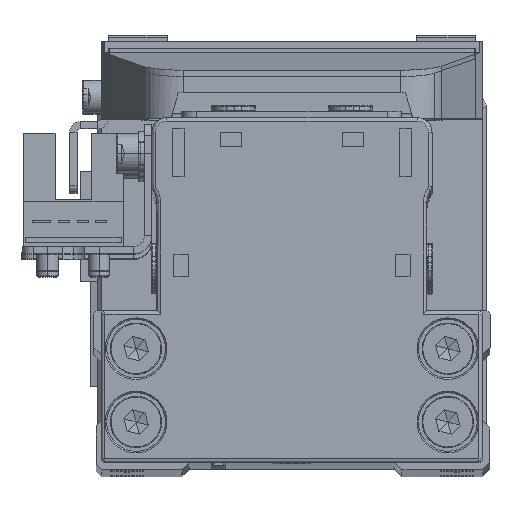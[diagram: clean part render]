
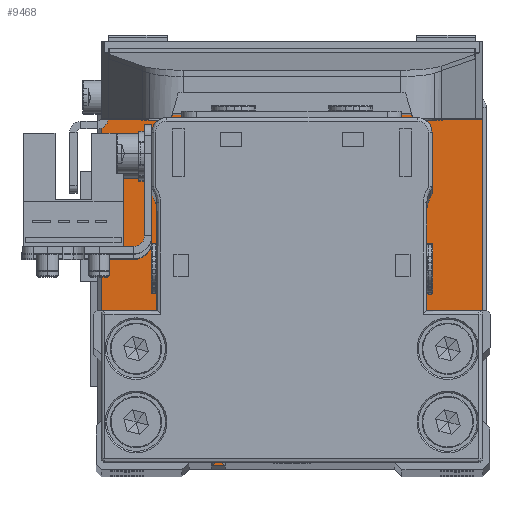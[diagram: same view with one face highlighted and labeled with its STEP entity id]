
A CAD part, top view. The second image highlights one B-rep face of the part: STEP entity #9468.
In plain terms, the highlighted planar face has unit normal (0, 0, 1).
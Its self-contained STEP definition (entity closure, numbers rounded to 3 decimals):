
#348 = VECTOR ( 'NONE', #12960, 1000. ) ;
#646 = EDGE_CURVE ( 'NONE', #25196, #21338, #15570, .T. ) ;
#680 = VERTEX_POINT ( 'NONE', #17342 ) ;
#705 = AXIS2_PLACEMENT_3D ( 'NONE', #17176, #27650, #4051 ) ;
#734 = EDGE_CURVE ( 'NONE', #11737, #680, #7847, .T. ) ;
#770 = EDGE_CURVE ( 'NONE', #3806, #23123, #5442, .T. ) ;
#965 = CARTESIAN_POINT ( 'NONE',  ( -21.25, 19.95, 6.5 ) ) ;
#1215 = ORIENTED_EDGE ( 'NONE', *, *, #21602, .T. ) ;
#1307 = DIRECTION ( 'NONE',  ( -1., 0., 0. ) ) ;
#1333 = CIRCLE ( 'NONE', #20591, 1. ) ;
#1823 = DIRECTION ( 'NONE',  ( -1., 0., 0. ) ) ;
#2122 = AXIS2_PLACEMENT_3D ( 'NONE', #14424, #24934, #1307 ) ;
#2147 = DIRECTION ( 'NONE',  ( -1., 0., 0. ) ) ;
#2171 = VERTEX_POINT ( 'NONE', #9353 ) ;
#2357 = CARTESIAN_POINT ( 'NONE',  ( 0., 0., 6.5 ) ) ;
#2446 = CARTESIAN_POINT ( 'NONE',  ( 26., 23.95, 6.5 ) ) ;
#3806 = VERTEX_POINT ( 'NONE', #8294 ) ;
#4051 = DIRECTION ( 'NONE',  ( -1., 0., 0. ) ) ;
#4298 = CARTESIAN_POINT ( 'NONE',  ( 26., 23.95, 6.5 ) ) ;
#4582 = CARTESIAN_POINT ( 'NONE',  ( 23.65, 19.95, 6.5 ) ) ;
#4702 = ORIENTED_EDGE ( 'NONE', *, *, #734, .T. ) ;
#4953 = FACE_BOUND ( 'NONE', #16106, .T. ) ;
#5442 = CIRCLE ( 'NONE', #24740, 1. ) ;
#5652 = EDGE_CURVE ( 'NONE', #12356, #3806, #19108, .T. ) ;
#5731 = ORIENTED_EDGE ( 'NONE', *, *, #26720, .T. ) ;
#6000 = DIRECTION ( 'NONE',  ( -1., 0., 0. ) ) ;
#6084 = CARTESIAN_POINT ( 'NONE',  ( -26., 23.95, 6.5 ) ) ;
#6174 = DIRECTION ( 'NONE',  ( -1., 0., 0. ) ) ;
#6272 = AXIS2_PLACEMENT_3D ( 'NONE', #12717, #23237, #33728 ) ;
#7228 = CARTESIAN_POINT ( 'NONE',  ( 25., 24.95, 6.5 ) ) ;
#7458 = CARTESIAN_POINT ( 'NONE',  ( -25., 23.95, 6.5 ) ) ;
#7514 = CARTESIAN_POINT ( 'NONE',  ( 25., -24.95, 6.5 ) ) ;
#7526 = FACE_BOUND ( 'NONE', #15422, .T. ) ;
#7843 = DIRECTION ( 'NONE',  ( -1., 0., 0. ) ) ;
#7847 = CIRCLE ( 'NONE', #27125, 2.4 ) ;
#7909 = ORIENTED_EDGE ( 'NONE', *, *, #25901, .T. ) ;
#7913 = EDGE_CURVE ( 'NONE', #680, #11737, #14376, .T. ) ;
#8183 = ORIENTED_EDGE ( 'NONE', *, *, #646, .T. ) ;
#8294 = CARTESIAN_POINT ( 'NONE',  ( -25., 24.95, 6.5 ) ) ;
#8396 = DIRECTION ( 'NONE',  ( 0., 0., 1. ) ) ;
#8676 = DIRECTION ( 'NONE',  ( 0., -1., 0. ) ) ;
#8688 = ORIENTED_EDGE ( 'NONE', *, *, #11433, .T. ) ;
#8808 = AXIS2_PLACEMENT_3D ( 'NONE', #20974, #31446, #7843 ) ;
#9353 = CARTESIAN_POINT ( 'NONE',  ( 23.65, 9.95, 6.5 ) ) ;
#9447 = EDGE_CURVE ( 'NONE', #30058, #15426, #21144, .T. ) ;
#9468 = ADVANCED_FACE ( 'NONE', ( #7526, #18074, #28552, #4953, #15472 ), #25973, .T. ) ;
#9620 = EDGE_CURVE ( 'NONE', #32373, #23668, #1333, .T. ) ;
#9727 = CARTESIAN_POINT ( 'NONE',  ( -21.25, 9.95, 6.5 ) ) ;
#9729 = CARTESIAN_POINT ( 'NONE',  ( 25., 23.95, 6.5 ) ) ;
#9993 = ORIENTED_EDGE ( 'NONE', *, *, #9447, .T. ) ;
#10244 = DIRECTION ( 'NONE',  ( 1., 0., 0. ) ) ;
#11062 = CARTESIAN_POINT ( 'NONE',  ( 26., -23.95, 6.5 ) ) ;
#11315 = CIRCLE ( 'NONE', #30548, 2.4 ) ;
#11329 = CARTESIAN_POINT ( 'NONE',  ( -25., -24.95, 6.5 ) ) ;
#11433 = EDGE_CURVE ( 'NONE', #22402, #12356, #13029, .T. ) ;
#11485 = DIRECTION ( 'NONE',  ( 0., 0., -1. ) ) ;
#11622 = CARTESIAN_POINT ( 'NONE',  ( -23.65, 9.95, 6.5 ) ) ;
#11737 = VERTEX_POINT ( 'NONE', #11622 ) ;
#12356 = VERTEX_POINT ( 'NONE', #7228 ) ;
#12579 = CIRCLE ( 'NONE', #2122, 2.4 ) ;
#12717 = CARTESIAN_POINT ( 'NONE',  ( 25., -23.95, 6.5 ) ) ;
#12871 = DIRECTION ( 'NONE',  ( 0., 0., 1. ) ) ;
#12960 = DIRECTION ( 'NONE',  ( 0., 1., 0. ) ) ;
#13029 = CIRCLE ( 'NONE', #32283, 1. ) ;
#13340 = EDGE_LOOP ( 'NONE', ( #17875, #30650 ) ) ;
#14376 = CIRCLE ( 'NONE', #33614, 2.4 ) ;
#14399 = ORIENTED_EDGE ( 'NONE', *, *, #32866, .T. ) ;
#14424 = CARTESIAN_POINT ( 'NONE',  ( 21.25, 9.95, 6.5 ) ) ;
#14721 = CARTESIAN_POINT ( 'NONE',  ( 18.85, 9.95, 6.5 ) ) ;
#14937 = CARTESIAN_POINT ( 'NONE',  ( 21.25, 19.95, 6.5 ) ) ;
#15197 = VECTOR ( 'NONE', #8676, 1000. ) ;
#15233 = CARTESIAN_POINT ( 'NONE',  ( -21.25, 19.95, 6.5 ) ) ;
#15422 = EDGE_LOOP ( 'NONE', ( #24321, #8183 ) ) ;
#15426 = VERTEX_POINT ( 'NONE', #11062 ) ;
#15472 = FACE_OUTER_BOUND ( 'NONE', #29005, .T. ) ;
#15570 = CIRCLE ( 'NONE', #705, 2.4 ) ;
#16106 = EDGE_LOOP ( 'NONE', ( #5731, #28058 ) ) ;
#17176 = CARTESIAN_POINT ( 'NONE',  ( 21.25, 19.95, 6.5 ) ) ;
#17342 = CARTESIAN_POINT ( 'NONE',  ( -18.85, 9.95, 6.5 ) ) ;
#17875 = ORIENTED_EDGE ( 'NONE', *, *, #19558, .T. ) ;
#18005 = DIRECTION ( 'NONE',  ( 0., 0., 1. ) ) ;
#18042 = AXIS2_PLACEMENT_3D ( 'NONE', #15233, #25750, #2147 ) ;
#18074 = FACE_BOUND ( 'NONE', #13340, .T. ) ;
#18914 = DIRECTION ( 'NONE',  ( 1., 0., 0. ) ) ;
#19108 = LINE ( 'NONE', #29591, #31082 ) ;
#19130 = ORIENTED_EDGE ( 'NONE', *, *, #770, .T. ) ;
#19303 = CARTESIAN_POINT ( 'NONE',  ( -21.25, 9.95, 6.5 ) ) ;
#19558 = EDGE_CURVE ( 'NONE', #20051, #2171, #12579, .T. ) ;
#20051 = VERTEX_POINT ( 'NONE', #14721 ) ;
#20260 = DIRECTION ( 'NONE',  ( 0., 0., -1. ) ) ;
#20262 = DIRECTION ( 'NONE',  ( 0., 0., 1. ) ) ;
#20427 = EDGE_LOOP ( 'NONE', ( #4702, #31920 ) ) ;
#20591 = AXIS2_PLACEMENT_3D ( 'NONE', #31990, #8396, #18914 ) ;
#20974 = CARTESIAN_POINT ( 'NONE',  ( 21.25, 9.95, 6.5 ) ) ;
#20983 = ORIENTED_EDGE ( 'NONE', *, *, #5652, .T. ) ;
#21019 = EDGE_CURVE ( 'NONE', #21338, #25196, #24546, .T. ) ;
#21144 = CIRCLE ( 'NONE', #6272, 1. ) ;
#21338 = VERTEX_POINT ( 'NONE', #27284 ) ;
#21602 = EDGE_CURVE ( 'NONE', #15426, #22402, #26062, .T. ) ;
#21782 = LINE ( 'NONE', #32269, #15197 ) ;
#22020 = DIRECTION ( 'NONE',  ( -1., 0., 0. ) ) ;
#22402 = VERTEX_POINT ( 'NONE', #4298 ) ;
#22751 = ORIENTED_EDGE ( 'NONE', *, *, #9620, .T. ) ;
#23123 = VERTEX_POINT ( 'NONE', #6084 ) ;
#23232 = CARTESIAN_POINT ( 'NONE',  ( -26., -23.95, 6.5 ) ) ;
#23237 = DIRECTION ( 'NONE',  ( 0., 0., 1. ) ) ;
#23356 = LINE ( 'NONE', #33845, #33217 ) ;
#23399 = DIRECTION ( 'NONE',  ( 1., 0., 0. ) ) ;
#23668 = VERTEX_POINT ( 'NONE', #11329 ) ;
#23677 = CIRCLE ( 'NONE', #8808, 2.4 ) ;
#23958 = EDGE_CURVE ( 'NONE', #2171, #20051, #23677, .T. ) ;
#24321 = ORIENTED_EDGE ( 'NONE', *, *, #21019, .T. ) ;
#24546 = CIRCLE ( 'NONE', #28912, 2.4 ) ;
#24740 = AXIS2_PLACEMENT_3D ( 'NONE', #7458, #18005, #28494 ) ;
#24934 = DIRECTION ( 'NONE',  ( 0., 0., -1. ) ) ;
#25196 = VERTEX_POINT ( 'NONE', #4582 ) ;
#25445 = DIRECTION ( 'NONE',  ( 0., 0., -1. ) ) ;
#25626 = CARTESIAN_POINT ( 'NONE',  ( -23.65, 19.95, 6.5 ) ) ;
#25750 = DIRECTION ( 'NONE',  ( 0., 0., -1. ) ) ;
#25901 = EDGE_CURVE ( 'NONE', #23123, #32373, #21782, .T. ) ;
#25973 = PLANE ( 'NONE',  #29925 ) ;
#26062 = LINE ( 'NONE', #2446, #348 ) ;
#26720 = EDGE_CURVE ( 'NONE', #30032, #30746, #11315, .T. ) ;
#27125 = AXIS2_PLACEMENT_3D ( 'NONE', #9727, #20260, #30749 ) ;
#27284 = CARTESIAN_POINT ( 'NONE',  ( 18.85, 19.95, 6.5 ) ) ;
#27418 = CARTESIAN_POINT ( 'NONE',  ( -18.85, 19.95, 6.5 ) ) ;
#27650 = DIRECTION ( 'NONE',  ( 0., 0., -1. ) ) ;
#28058 = ORIENTED_EDGE ( 'NONE', *, *, #28635, .T. ) ;
#28494 = DIRECTION ( 'NONE',  ( 1., 0., 0. ) ) ;
#28552 = FACE_BOUND ( 'NONE', #20427, .T. ) ;
#28635 = EDGE_CURVE ( 'NONE', #30746, #30032, #32893, .T. ) ;
#28912 = AXIS2_PLACEMENT_3D ( 'NONE', #14937, #25445, #1823 ) ;
#29005 = EDGE_LOOP ( 'NONE', ( #19130, #7909, #22751, #14399, #9993, #1215, #8688, #20983 ) ) ;
#29591 = CARTESIAN_POINT ( 'NONE',  ( -25., 24.95, 6.5 ) ) ;
#29773 = DIRECTION ( 'NONE',  ( 0., 0., -1. ) ) ;
#29925 = AXIS2_PLACEMENT_3D ( 'NONE', #2357, #12871, #23399 ) ;
#30032 = VERTEX_POINT ( 'NONE', #25626 ) ;
#30058 = VERTEX_POINT ( 'NONE', #7514 ) ;
#30548 = AXIS2_PLACEMENT_3D ( 'NONE', #965, #11485, #22020 ) ;
#30650 = ORIENTED_EDGE ( 'NONE', *, *, #23958, .T. ) ;
#30746 = VERTEX_POINT ( 'NONE', #27418 ) ;
#30749 = DIRECTION ( 'NONE',  ( -1., 0., 0. ) ) ;
#30752 = DIRECTION ( 'NONE',  ( 1., 0., 0. ) ) ;
#31082 = VECTOR ( 'NONE', #6000, 1000. ) ;
#31446 = DIRECTION ( 'NONE',  ( 0., 0., -1. ) ) ;
#31920 = ORIENTED_EDGE ( 'NONE', *, *, #7913, .T. ) ;
#31990 = CARTESIAN_POINT ( 'NONE',  ( -25., -23.95, 6.5 ) ) ;
#32269 = CARTESIAN_POINT ( 'NONE',  ( -26., -23.95, 6.5 ) ) ;
#32283 = AXIS2_PLACEMENT_3D ( 'NONE', #9729, #20262, #30752 ) ;
#32373 = VERTEX_POINT ( 'NONE', #23232 ) ;
#32866 = EDGE_CURVE ( 'NONE', #23668, #30058, #23356, .T. ) ;
#32893 = CIRCLE ( 'NONE', #18042, 2.4 ) ;
#33217 = VECTOR ( 'NONE', #10244, 1000. ) ;
#33614 = AXIS2_PLACEMENT_3D ( 'NONE', #19303, #29773, #6174 ) ;
#33728 = DIRECTION ( 'NONE',  ( 1., 0., 0. ) ) ;
#33845 = CARTESIAN_POINT ( 'NONE',  ( 25., -24.95, 6.5 ) ) ;
